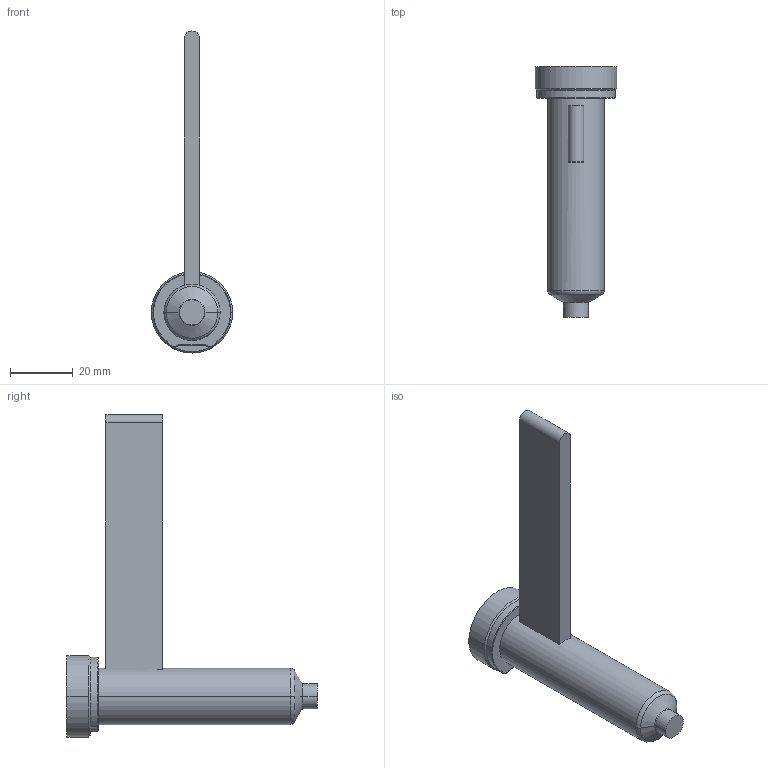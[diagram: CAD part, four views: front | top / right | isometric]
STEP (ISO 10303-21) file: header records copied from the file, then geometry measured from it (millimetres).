
FILE_DESCRIPTION((''),'2;1');
FILE_NAME('EO04_PG-FB_STD_070_COT','2024-02-19T11:21:03',('sundharh'),(''),'CREO PARAMETRIC BY PTC INC, 2023154','CREO PARAMETRIC BY PTC INC, 2023154','');
FILE_SCHEMA(('CONFIG_CONTROL_DESIGN'));
Length unit declared in the file: millimetre
Products named in the file (1): EO04_PG-FB_STD_070_COT
Bounding box: 26 x 80 x 103 mm (x, y, z)
Volume: 28926.8 mm3; surface area: 9204.3 mm2
Topology: 1 solids, 1 shells, 31 faces, 67 edges, 40 vertices
Faces by surface type: cylinder 11, plane 9, torus 7, cone 4
Entity records: 961 total; most frequent: CARTESIAN_POINT 228, DIRECTION 159, ORIENTED_EDGE 134, AXIS2_PLACEMENT_3D 67, EDGE_CURVE 67, VERTEX_POINT 40, CIRCLE 36, EDGE_LOOP 33
